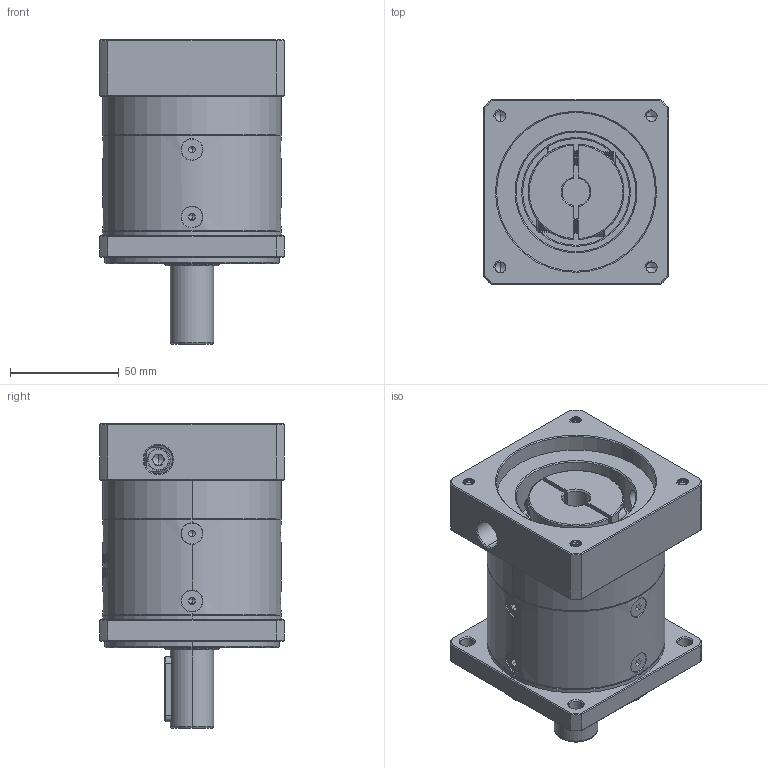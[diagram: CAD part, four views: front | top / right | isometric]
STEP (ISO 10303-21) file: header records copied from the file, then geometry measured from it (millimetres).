
FILE_DESCRIPTION (( 'STEP AP214' ), '1' );
FILE_NAME ('ZF080-D20-L1-P2-12.7-73-69.6X69.6-M6.step', '2023-08-19T05:27:30', ( '' ), ( '' ), 'SwSTEP 2.0', 'SolidWorks 2016', '' );
FILE_SCHEMA (( 'AUTOMOTIVE_DESIGN' ));
Length unit declared in the file: millimetre
Products named in the file (1): ZF080-D20-L1-P2-12.7-73-69.6X69.6-M6
Bounding box: 85 x 85 x 140 mm (x, y, z)
Volume: 544765.2 mm3; surface area: 89006.8 mm2
Topology: 13 solids, 13 shells, 2232 faces, 5847 edges, 3714 vertices
Faces by surface type: plane 1071, bspline 394, cylinder 390, cone 340, torus 37
Entity records: 119167 total; most frequent: CARTESIAN_POINT 44726, ORIENTED_EDGE 11634, DIRECTION 8629, EDGE_CURVE 5817, VERTEX_POINT 3714, VECTOR 3095, LINE 3095, AXIS2_PLACEMENT_3D 2767
